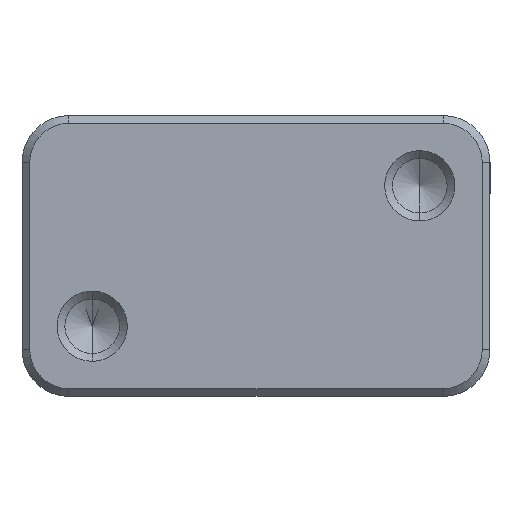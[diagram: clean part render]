
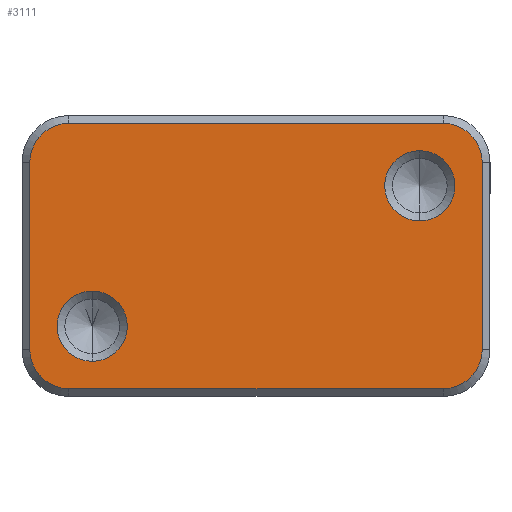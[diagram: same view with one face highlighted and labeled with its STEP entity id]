
A CAD part, front view. The second image highlights one B-rep face of the part: STEP entity #3111.
In plain terms, the highlighted planar face has unit normal (0, -1, 0).
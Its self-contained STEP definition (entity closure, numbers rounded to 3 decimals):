
#86 = CARTESIAN_POINT ( 'NONE',  ( -21., 0., -4.509 ) ) ;
#234 = VECTOR ( 'NONE', #293, 1000. ) ;
#293 = DIRECTION ( 'NONE',  ( -1., 0., 0. ) ) ;
#520 = LINE ( 'NONE', #9009, #1081 ) ;
#542 = CARTESIAN_POINT ( 'NONE',  ( -24., 0., -12.009 ) ) ;
#554 = CARTESIAN_POINT ( 'NONE',  ( 24., 0., -12.009 ) ) ;
#766 = DIRECTION ( 'NONE',  ( 0., -1., 0. ) ) ;
#838 = VERTEX_POINT ( 'NONE', #10499 ) ;
#894 = CIRCLE ( 'NONE', #5102, 4.999 ) ;
#1070 = CARTESIAN_POINT ( 'NONE',  ( 24., 0., 16.992 ) ) ;
#1081 = VECTOR ( 'NONE', #2675, 1000. ) ;
#1327 = AXIS2_PLACEMENT_3D ( 'NONE', #542, #10077, #13285 ) ;
#1484 = CIRCLE ( 'NONE', #9494, 4.5 ) ;
#1693 = AXIS2_PLACEMENT_3D ( 'NONE', #10028, #13305, #6063 ) ;
#1703 = ORIENTED_EDGE ( 'NONE', *, *, #12571, .T. ) ;
#1821 = CARTESIAN_POINT ( 'NONE',  ( 30., 0., 17.992 ) ) ;
#1855 = CARTESIAN_POINT ( 'NONE',  ( -21., 0., -9.009 ) ) ;
#1930 = CARTESIAN_POINT ( 'NONE',  ( -24., 0., -17.009 ) ) ;
#2165 = VECTOR ( 'NONE', #2198, 1000. ) ;
#2198 = DIRECTION ( 'NONE',  ( 0., 0., -1. ) ) ;
#2265 = CARTESIAN_POINT ( 'NONE',  ( 21., 0., 13.493 ) ) ;
#2350 = CARTESIAN_POINT ( 'NONE',  ( -24., 0., 11.993 ) ) ;
#2404 = CARTESIAN_POINT ( 'NONE',  ( -21., 0., -13.509 ) ) ;
#2549 = AXIS2_PLACEMENT_3D ( 'NONE', #12196, #3823, #12058 ) ;
#2577 = PLANE ( 'NONE',  #9693 ) ;
#2675 = DIRECTION ( 'NONE',  ( 0., 0., 1. ) ) ;
#2773 = VERTEX_POINT ( 'NONE', #1930 ) ;
#3073 = EDGE_CURVE ( 'NONE', #4533, #7766, #5252, .T. ) ;
#3111 = ADVANCED_FACE ( 'NONE', ( #12122, #13446, #6814 ), #2577, .T. ) ;
#3271 = ORIENTED_EDGE ( 'NONE', *, *, #3073, .T. ) ;
#3278 = EDGE_CURVE ( 'NONE', #12957, #8469, #7676, .T. ) ;
#3474 = CARTESIAN_POINT ( 'NONE',  ( 30., 0., 16.992 ) ) ;
#3628 = CARTESIAN_POINT ( 'NONE',  ( 21., 0., 8.993 ) ) ;
#3690 = EDGE_CURVE ( 'NONE', #838, #6292, #8585, .T. ) ;
#3823 = DIRECTION ( 'NONE',  ( 0., 1., 0. ) ) ;
#3883 = EDGE_CURVE ( 'NONE', #6292, #838, #12792, .T. ) ;
#4004 = VERTEX_POINT ( 'NONE', #5083 ) ;
#4086 = DIRECTION ( 'NONE',  ( 0., 0., 1. ) ) ;
#4135 = ORIENTED_EDGE ( 'NONE', *, *, #3883, .T. ) ;
#4236 = DIRECTION ( 'NONE',  ( 0., 0., 1. ) ) ;
#4339 = CARTESIAN_POINT ( 'NONE',  ( -29., 0., 17.992 ) ) ;
#4533 = VERTEX_POINT ( 'NONE', #2404 ) ;
#4614 = AXIS2_PLACEMENT_3D ( 'NONE', #554, #766, #4086 ) ;
#4679 = EDGE_CURVE ( 'NONE', #7766, #4533, #1484, .T. ) ;
#5083 = CARTESIAN_POINT ( 'NONE',  ( -29., 0., -12.009 ) ) ;
#5102 = AXIS2_PLACEMENT_3D ( 'NONE', #6182, #8534, #9655 ) ;
#5252 = CIRCLE ( 'NONE', #1693, 4.5 ) ;
#5608 = EDGE_CURVE ( 'NONE', #8469, #4004, #10549, .T. ) ;
#6063 = DIRECTION ( 'NONE',  ( 0., 0., -1. ) ) ;
#6182 = CARTESIAN_POINT ( 'NONE',  ( 24., 0., 11.993 ) ) ;
#6232 = CARTESIAN_POINT ( 'NONE',  ( 29., 0., -12.009 ) ) ;
#6292 = VERTEX_POINT ( 'NONE', #2265 ) ;
#6623 = VERTEX_POINT ( 'NONE', #7093 ) ;
#6814 = FACE_OUTER_BOUND ( 'NONE', #13351, .T. ) ;
#6989 = DIRECTION ( 'NONE',  ( 0., 0., -1. ) ) ;
#7093 = CARTESIAN_POINT ( 'NONE',  ( 24., 0., -17.009 ) ) ;
#7330 = CIRCLE ( 'NONE', #1327, 4.999 ) ;
#7366 = EDGE_CURVE ( 'NONE', #9442, #9198, #520, .T. ) ;
#7461 = EDGE_CURVE ( 'NONE', #2773, #6623, #8654, .T. ) ;
#7636 = DIRECTION ( 'NONE',  ( 0., -1., 0. ) ) ;
#7676 = CIRCLE ( 'NONE', #9480, 4.999 ) ;
#7766 = VERTEX_POINT ( 'NONE', #86 ) ;
#7857 = DIRECTION ( 'NONE',  ( 1., 0., 0. ) ) ;
#7921 = EDGE_CURVE ( 'NONE', #6623, #9442, #12866, .T. ) ;
#8071 = DIRECTION ( 'NONE',  ( 0., -1., 0. ) ) ;
#8365 = CARTESIAN_POINT ( 'NONE',  ( 29., 0., 11.993 ) ) ;
#8469 = VERTEX_POINT ( 'NONE', #12629 ) ;
#8534 = DIRECTION ( 'NONE',  ( 0., -1., 0. ) ) ;
#8585 = CIRCLE ( 'NONE', #12153, 4.5 ) ;
#8654 = LINE ( 'NONE', #10802, #13075 ) ;
#8926 = ORIENTED_EDGE ( 'NONE', *, *, #4679, .T. ) ;
#9009 = CARTESIAN_POINT ( 'NONE',  ( 29., 0., 17.992 ) ) ;
#9162 = DIRECTION ( 'NONE',  ( 0., 1., 0. ) ) ;
#9198 = VERTEX_POINT ( 'NONE', #8365 ) ;
#9353 = ORIENTED_EDGE ( 'NONE', *, *, #13231, .T. ) ;
#9442 = VERTEX_POINT ( 'NONE', #6232 ) ;
#9480 = AXIS2_PLACEMENT_3D ( 'NONE', #2350, #7636, #4236 ) ;
#9494 = AXIS2_PLACEMENT_3D ( 'NONE', #1855, #9162, #6989 ) ;
#9655 = DIRECTION ( 'NONE',  ( 0., 0., 1. ) ) ;
#9693 = AXIS2_PLACEMENT_3D ( 'NONE', #1821, #8071, #7857 ) ;
#10028 = CARTESIAN_POINT ( 'NONE',  ( -21., 0., -9.009 ) ) ;
#10077 = DIRECTION ( 'NONE',  ( 0., -1., 0. ) ) ;
#10296 = EDGE_LOOP ( 'NONE', ( #11848, #4135 ) ) ;
#10412 = CARTESIAN_POINT ( 'NONE',  ( -24., 0., 16.992 ) ) ;
#10499 = CARTESIAN_POINT ( 'NONE',  ( 21., 0., 4.493 ) ) ;
#10524 = VERTEX_POINT ( 'NONE', #1070 ) ;
#10549 = LINE ( 'NONE', #4339, #2165 ) ;
#10802 = CARTESIAN_POINT ( 'NONE',  ( -282.5, 0., -17.009 ) ) ;
#10935 = ORIENTED_EDGE ( 'NONE', *, *, #7366, .T. ) ;
#11158 = DIRECTION ( 'NONE',  ( 0., 1., 0. ) ) ;
#11272 = ORIENTED_EDGE ( 'NONE', *, *, #5608, .T. ) ;
#11434 = ORIENTED_EDGE ( 'NONE', *, *, #3278, .T. ) ;
#11847 = EDGE_CURVE ( 'NONE', #9198, #10524, #894, .T. ) ;
#11848 = ORIENTED_EDGE ( 'NONE', *, *, #3690, .T. ) ;
#11857 = DIRECTION ( 'NONE',  ( 1., 0., 0. ) ) ;
#11915 = ORIENTED_EDGE ( 'NONE', *, *, #7461, .T. ) ;
#11917 = LINE ( 'NONE', #3474, #234 ) ;
#12058 = DIRECTION ( 'NONE',  ( 0., 0., -1. ) ) ;
#12122 = FACE_BOUND ( 'NONE', #10296, .T. ) ;
#12145 = DIRECTION ( 'NONE',  ( 0., 0., -1. ) ) ;
#12153 = AXIS2_PLACEMENT_3D ( 'NONE', #3628, #11158, #12145 ) ;
#12196 = CARTESIAN_POINT ( 'NONE',  ( 21., 0., 8.993 ) ) ;
#12571 = EDGE_CURVE ( 'NONE', #4004, #2773, #7330, .T. ) ;
#12629 = CARTESIAN_POINT ( 'NONE',  ( -29., 0., 11.993 ) ) ;
#12682 = EDGE_LOOP ( 'NONE', ( #3271, #8926 ) ) ;
#12792 = CIRCLE ( 'NONE', #2549, 4.5 ) ;
#12866 = CIRCLE ( 'NONE', #4614, 4.999 ) ;
#12957 = VERTEX_POINT ( 'NONE', #10412 ) ;
#13075 = VECTOR ( 'NONE', #11857, 1000. ) ;
#13231 = EDGE_CURVE ( 'NONE', #10524, #12957, #11917, .T. ) ;
#13285 = DIRECTION ( 'NONE',  ( 0., 0., 1. ) ) ;
#13305 = DIRECTION ( 'NONE',  ( 0., 1., 0. ) ) ;
#13334 = ORIENTED_EDGE ( 'NONE', *, *, #7921, .T. ) ;
#13351 = EDGE_LOOP ( 'NONE', ( #11272, #1703, #11915, #13334, #10935, #13477, #9353, #11434 ) ) ;
#13446 = FACE_BOUND ( 'NONE', #12682, .T. ) ;
#13477 = ORIENTED_EDGE ( 'NONE', *, *, #11847, .T. ) ;
